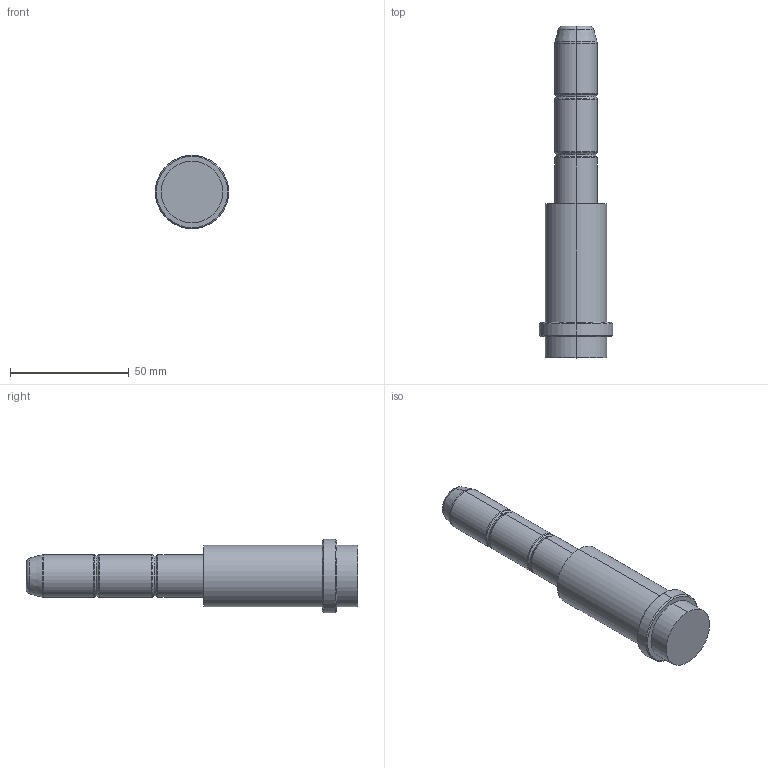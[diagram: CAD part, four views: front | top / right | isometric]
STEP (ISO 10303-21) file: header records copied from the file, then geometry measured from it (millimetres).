
FILE_DESCRIPTION (( 'STEP AP214' ), '1' );
FILE_NAME ('BR00 18x56x75.STEP', '2019-05-15T09:00:12', ( 'August' ), ( '' ), 'SwSTEP 2.0', 'SolidWorks 2018', '' );
FILE_SCHEMA (( 'AUTOMOTIVE_DESIGN' ));
Length unit declared in the file: millimetre
Products named in the file (1): BR00 18x56x75
Bounding box: 31 x 140 x 31 mm (x, y, z)
Volume: 54449.9 mm3; surface area: 10981.9 mm2
Topology: 1 solids, 1 shells, 43 faces, 84 edges, 46 vertices
Faces by surface type: torus 20, cylinder 12, cone 6, plane 5
Entity records: 1138 total; most frequent: DIRECTION 238, CARTESIAN_POINT 174, ORIENTED_EDGE 168, AXIS2_PLACEMENT_3D 110, EDGE_CURVE 84, CIRCLE 66, EDGE_LOOP 46, VERTEX_POINT 46
